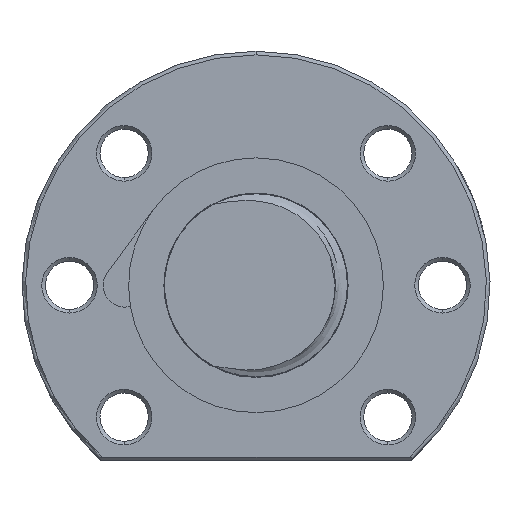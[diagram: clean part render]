
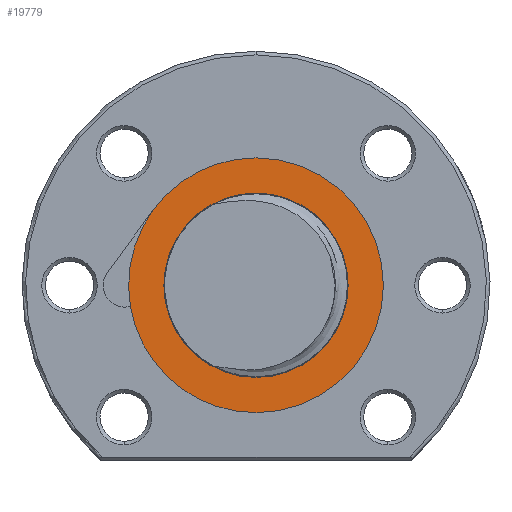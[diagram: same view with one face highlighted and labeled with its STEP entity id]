
A CAD part, left-side view. The second image highlights one B-rep face of the part: STEP entity #19779.
In plain terms, the highlighted planar face has unit normal (-1, 0, 0).
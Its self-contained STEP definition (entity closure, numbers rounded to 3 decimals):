
#19377 = EDGE_CURVE ( 'NONE', #19378, #19379, #21573, .T. ) ;
#19378 = VERTEX_POINT ( 'NONE', #21568 ) ;
#19379 = VERTEX_POINT ( 'NONE', #21567 ) ;
#19449 = EDGE_CURVE ( 'NONE', #19379, #19450, #21492, .T. ) ;
#19450 = VERTEX_POINT ( 'NONE', #21487 ) ;
#19462 = VERTEX_POINT ( 'NONE', #21748 ) ;
#19464 = EDGE_CURVE ( 'NONE', #19462, #19465, #21747, .T. ) ;
#19465 = VERTEX_POINT ( 'NONE', #21742 ) ;
#19485 = EDGE_CURVE ( 'NONE', #19465, #19462, #21839, .T. ) ;
#19606 = EDGE_CURVE ( 'NONE', #19607, #19378, #22057, .T. ) ;
#19607 = VERTEX_POINT ( 'NONE', #22052 ) ;
#19648 = ORIENTED_EDGE ( 'NONE', *, *, #19377, .T. ) ;
#19649 = ORIENTED_EDGE ( 'NONE', *, *, #19449, .T. ) ;
#19650 = EDGE_LOOP ( 'NONE', ( #19651, #19652 ) ) ;
#19651 = ORIENTED_EDGE ( 'NONE', *, *, #19485, .F. ) ;
#19652 = ORIENTED_EDGE ( 'NONE', *, *, #19464, .F. ) ;
#19779 = ADVANCED_FACE ( 'NONE', ( #22501, #22500 ), #22550, .T. ) ;
#19780 = EDGE_LOOP ( 'NONE', ( #19781, #19783, #19648, #19649 ) ) ;
#19781 = ORIENTED_EDGE ( 'NONE', *, *, #19782, .T. ) ;
#19782 = EDGE_CURVE ( 'NONE', #19450, #19607, #22555, .T. ) ;
#19783 = ORIENTED_EDGE ( 'NONE', *, *, #19606, .T. ) ;
#21487 = CARTESIAN_POINT ( 'NONE',  ( -86.8, 14.028, 10.32 ) ) ;
#21488 = DIRECTION ( 'NONE',  ( 0., 0., 1. ) ) ;
#21489 = DIRECTION ( 'NONE',  ( -1., 0., 0. ) ) ;
#21490 = CARTESIAN_POINT ( 'NONE',  ( -86.8, 0., 0. ) ) ;
#21491 = AXIS2_PLACEMENT_3D ( 'NONE', #21490, #21489, #21488 ) ;
#21492 = CIRCLE ( 'NONE', #21491, 17.416 ) ;
#21567 = CARTESIAN_POINT ( 'NONE',  ( -86.8, 0., 17.416 ) ) ;
#21568 = CARTESIAN_POINT ( 'NONE',  ( -86.8, 0., -17.416 ) ) ;
#21569 = DIRECTION ( 'NONE',  ( 0., 0., 1. ) ) ;
#21570 = DIRECTION ( 'NONE',  ( -1., 0., 0. ) ) ;
#21571 = CARTESIAN_POINT ( 'NONE',  ( -86.8, 0., 0. ) ) ;
#21572 = AXIS2_PLACEMENT_3D ( 'NONE', #21571, #21570, #21569 ) ;
#21573 = CIRCLE ( 'NONE', #21572, 17.416 ) ;
#21742 = CARTESIAN_POINT ( 'NONE',  ( -86.8, 0., 12.6 ) ) ;
#21743 = DIRECTION ( 'NONE',  ( 0., 0., 1. ) ) ;
#21744 = DIRECTION ( 'NONE',  ( -1., 0., 0. ) ) ;
#21745 = CARTESIAN_POINT ( 'NONE',  ( -86.8, 0., 0. ) ) ;
#21746 = AXIS2_PLACEMENT_3D ( 'NONE', #21745, #21744, #21743 ) ;
#21747 = CIRCLE ( 'NONE', #21746, 12.6 ) ;
#21748 = CARTESIAN_POINT ( 'NONE',  ( -86.8, 0., -12.6 ) ) ;
#21835 = DIRECTION ( 'NONE',  ( 0., 0., 1. ) ) ;
#21836 = DIRECTION ( 'NONE',  ( -1., 0., 0. ) ) ;
#21837 = CARTESIAN_POINT ( 'NONE',  ( -86.8, 0., 0. ) ) ;
#21838 = AXIS2_PLACEMENT_3D ( 'NONE', #21837, #21836, #21835 ) ;
#21839 = CIRCLE ( 'NONE', #21838, 12.6 ) ;
#22052 = CARTESIAN_POINT ( 'NONE',  ( -86.8, 17.174, -2.891 ) ) ;
#22053 = DIRECTION ( 'NONE',  ( 0., 0., 1. ) ) ;
#22054 = DIRECTION ( 'NONE',  ( -1., 0., 0. ) ) ;
#22055 = CARTESIAN_POINT ( 'NONE',  ( -86.8, 0., 0. ) ) ;
#22056 = AXIS2_PLACEMENT_3D ( 'NONE', #22055, #22054, #22053 ) ;
#22057 = CIRCLE ( 'NONE', #22056, 17.416 ) ;
#22500 = FACE_BOUND ( 'NONE', #19650, .T. ) ;
#22501 = FACE_OUTER_BOUND ( 'NONE', #19780, .T. ) ;
#22550 = PLANE ( 'NONE',  #22559 ) ;
#22551 = DIRECTION ( 'NONE',  ( 0., 0., 1. ) ) ;
#22552 = DIRECTION ( 'NONE',  ( -1., 0., 0. ) ) ;
#22553 = CARTESIAN_POINT ( 'NONE',  ( -86.8, 0., 0. ) ) ;
#22554 = AXIS2_PLACEMENT_3D ( 'NONE', #22553, #22552, #22551 ) ;
#22555 = CIRCLE ( 'NONE', #22554, 17.416 ) ;
#22556 = DIRECTION ( 'NONE',  ( 0., 0., 1. ) ) ;
#22557 = DIRECTION ( 'NONE',  ( -1., 0., 0. ) ) ;
#22558 = CARTESIAN_POINT ( 'NONE',  ( -86.8, 0., 12.6 ) ) ;
#22559 = AXIS2_PLACEMENT_3D ( 'NONE', #22558, #22557, #22556 ) ;
